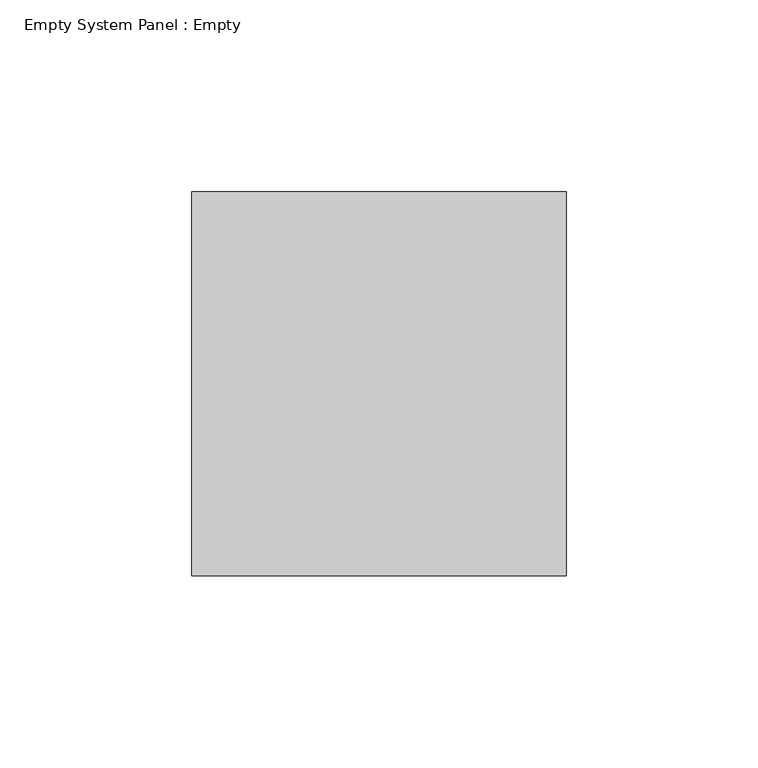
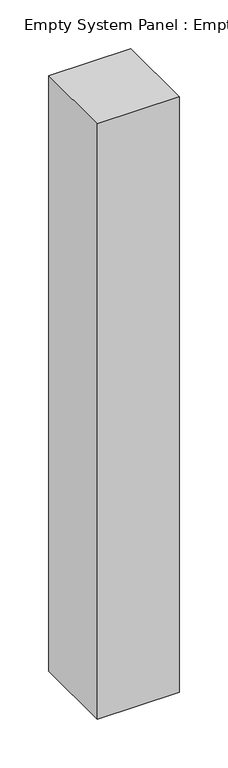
"""IFC4 building model written with IfcOpenShell, lengths in millimetres: plate geometry, Empty System Panel : Empty."""

from ifc_helpers import new_model, si_unit, origin, origin_with_axes, place, context, project, spatial, polyline, outline, extrude, source, transform, mapped, element, save


def empty_system_panel_empty_f8626ec1(model_context):
    return source(origin(), model_context, "Body", "SweptSolid", [
        extrude(outline(polyline([(48.75, -50.0), (-48.75, -50.0), (-48.75, 50.0), (48.75, 50.0), (48.75, -50.0)])), origin_with_axes(), (0.0, 0.0, 1.0), 748.2),
    ])


if __name__ == "__main__":
    model = new_model("IFC4")
    model_context = context("Model", 3, world=origin())
    ifc_project = project(units=[si_unit("LENGTHUNIT", "METRE", prefix="MILLI")], contexts=[model_context])
    site = spatial("IfcSite", under=ifc_project)
    building = spatial("IfcBuilding", under=site)
    placement = place(None, origin())
    empty_system_panel_empty_shape = empty_system_panel_empty_f8626ec1(model_context)
    element("IfcPlate", 1, ObjectType="Empty System Panel : Empty", at=placement, inside=building, context=model_context, shape_type="MappedRepresentation", body=[
        mapped(empty_system_panel_empty_shape, transform((0.0, 0.0, 0.0), x_axis=(1.0, 0.0, 0.0), y_axis=(0.0, 1.0, 0.0), z_axis=(0.0, 0.0, 1.0))),
    ])
    save(model, "model.ifc")
